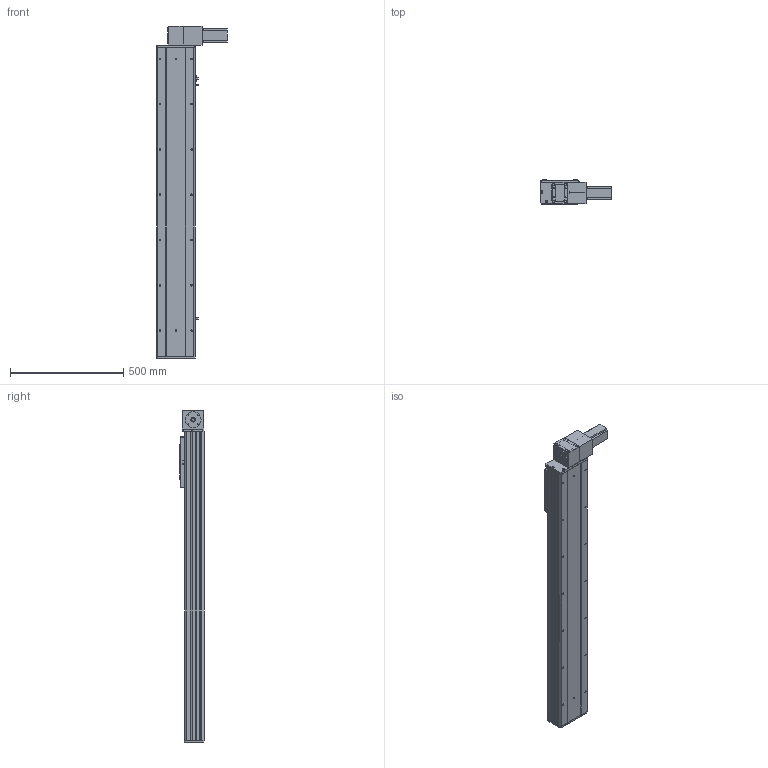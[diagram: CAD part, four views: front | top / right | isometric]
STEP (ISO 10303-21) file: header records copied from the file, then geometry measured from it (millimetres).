
FILE_DESCRIPTION (( 'STEP AP203' ), '1' );
FILE_NAME ('Y170CB-D105-S1050-BD-P400W.STEP', '2020-02-20T08:34:58', ( '微软用户' ), ( '微软中国' ), 'SwSTEP 2.0', 'SolidWorks 2017', '' );
FILE_SCHEMA (( 'CONFIG_CONTROL_DESIGN' ));
Length unit declared in the file: millimetre
Products named in the file (16): Y1埴倛裔; 70CB-詩湍--; san松下电机400不带刹车----; 70B喘謫眊----; 70CB-掛极-; 0B薊粣ん眊-400W--; Y170CB-D105-S1050-BD-P400W; --70CB --喘謫眊楊擘啣-; 70CB-耜裔啣-; 70C--詩湍揤踡え-; 70CB--耜裔; Y100-135俋离換覜ん--; 70C-雄赽釱-奻-; Y170CB-陔俋离換覜結え---; 0C--雄赽釱俋欶-170; B-源倛裔啣
Assembly tree (19 placements, depth 2):
  Y170CB-D105-S1050-BD-P400W
    B-源倛裔啣
    san松下电机400不带刹车----
    70CB-掛极-
    --70CB --喘謫眊楊擘啣-
    70CB-耜裔啣-  x2
    70C--詩湍揤踡え-  x2
    70CB--耜裔
    70C-雄赽釱-奻-
    0C--雄赽釱俋欶-170
    70CB-詩湍--
    Y100-135俋离換覜ん--  x3
    Y170CB-陔俋离換覜結え---
    Y1埴倛裔
    70B喘謫眊----
    0B薊粣ん眊-400W--
Bounding box: 313.5 x 107 x 1466 mm (x, y, z)
Volume: 7024078 mm3; surface area: 2387406.8 mm2
Topology: 19 solids, 19 shells, 920 faces, 2426 edges, 1608 vertices
Faces by surface type: cylinder 474, plane 422, cone 24
Entity records: 28719 total; most frequent: CARTESIAN_POINT 5326, DIRECTION 4671, ORIENTED_EDGE 4334, EDGE_CURVE 2167, AXIS2_PLACEMENT_3D 1721, VERTEX_POINT 1438, VECTOR 1229, LINE 1229
